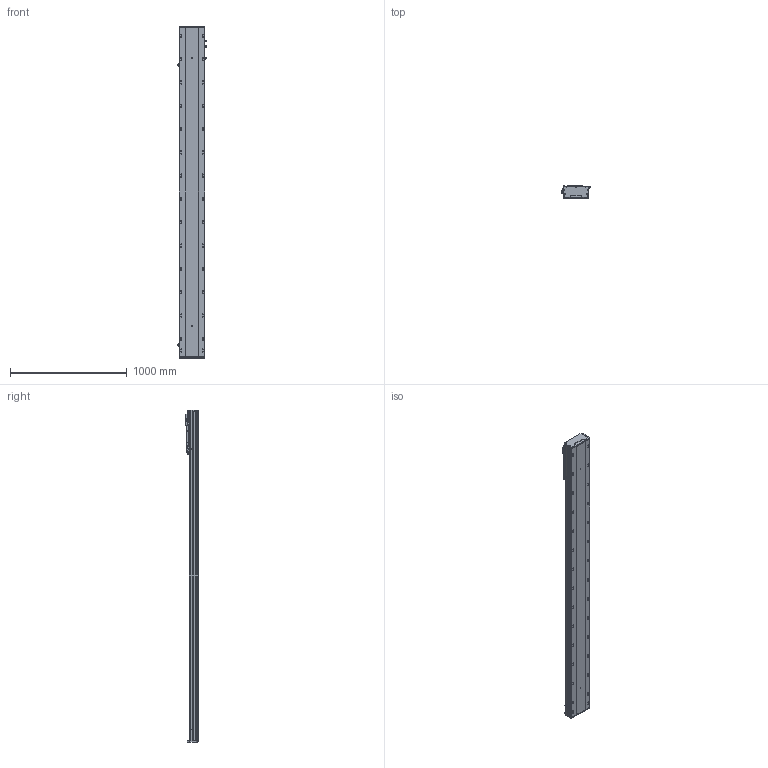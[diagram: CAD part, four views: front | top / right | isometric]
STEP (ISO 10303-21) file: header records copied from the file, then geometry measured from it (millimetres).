
FILE_DESCRIPTION (( 'STEP AP203' ), '1' );
FILE_NAME ('BEH22-A-M2-2400-L1-¦Õ22-PCD100-M6-C3.STEP', '2022-06-21T05:57:55', ( 'CXY' ), ( 'BT' ), 'SwSTEP 2.0', 'SolidWorks 2016', '' );
FILE_SCHEMA (( 'CONFIG_CONTROL_DESIGN' ));
Length unit declared in the file: millimetre
Products named in the file (12): BEH22-A-M2-2400-L1-耳22-PCD100-M6-C3; FS-02-BTH22; BEH22-04-F; BEH22-04-01_L; BTH22-07-DZ; _G-M6; PM-T65; FS-01-10（10毫米）; BEH22-07-PCD100-80-M6; BEH22-B-01-XX-2; FS-25-6.66-M2-H22K6; 萇儂階踡輸
Assembly tree (18 placements, depth 3):
  BEH22-A-M2-2400-L1-耳22-PCD100-M6-C3
    BEH22-B-01-XX-2
    BTH22-07-DZ  x2
    PM-T65  x2
    BEH22-04-01_L
      BEH22-04-F
      萇儂階踡輸
      _G-M6  x3
      FS-02-BTH22
      FS-01-10（10毫米）  x4
      BEH22-07-PCD100-80-M6
      FS-25-6.66-M2-H22K6
Bounding box: 247.7 x 111 x 2848 mm (x, y, z)
Volume: 29933636 mm3; surface area: 2961378 mm2
Topology: 21 solids, 21 shells, 2274 faces, 6586 edges, 4270 vertices
Faces by surface type: cylinder 1128, plane 854, cone 233, bspline 37, torus 22
Entity records: 462826 total; most frequent: CARTESIAN_POINT 412615, ORIENTED_EDGE 10992, DIRECTION 9416, EDGE_CURVE 5496, VERTEX_POINT 3630, AXIS2_PLACEMENT_3D 3438, VECTOR 2540, LINE 2540
